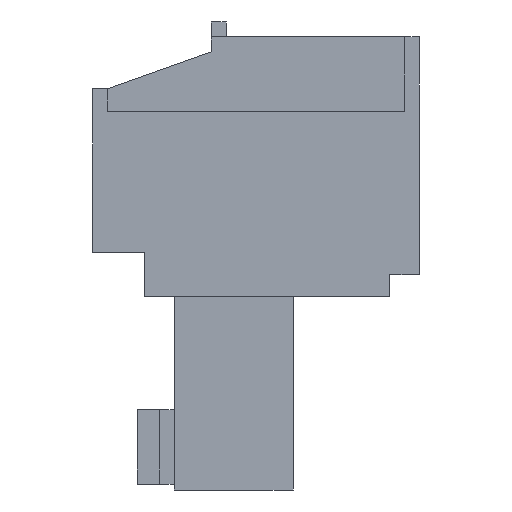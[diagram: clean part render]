
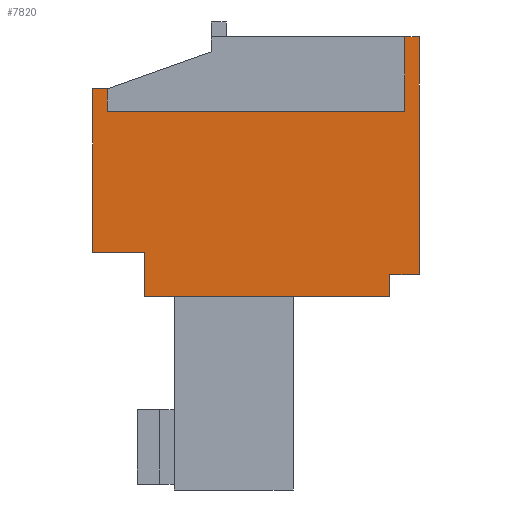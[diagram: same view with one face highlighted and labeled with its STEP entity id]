
A CAD part, left-side view. The second image highlights one B-rep face of the part: STEP entity #7820.
In plain terms, the highlighted planar face has unit normal (-1, 0, 0).
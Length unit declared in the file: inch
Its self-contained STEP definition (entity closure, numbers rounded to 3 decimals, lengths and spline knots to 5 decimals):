
#1=DIRECTION('',(0.,0.,-1.));
#2=VECTOR('',#1,0.1);
#3=CARTESIAN_POINT('',(-0.915,0.02,0.));
#4=LINE('',#3,#2);
#5=DIRECTION('',(0.,-1.,0.));
#6=VECTOR('',#5,0.02);
#7=CARTESIAN_POINT('',(-0.915,0.02,0.));
#8=LINE('',#7,#6);
#9=DIRECTION('',(0.,0.,-1.));
#10=VECTOR('',#9,0.32);
#11=CARTESIAN_POINT('',(-0.915,0.,0.));
#12=LINE('',#11,#10);
#13=DIRECTION('',(0.,1.,0.));
#14=VECTOR('',#13,0.04);
#15=CARTESIAN_POINT('',(-0.915,0.,-0.32));
#16=LINE('',#15,#14);
#17=DIRECTION('',(0.,0.,-1.));
#18=VECTOR('',#17,0.03);
#19=CARTESIAN_POINT('',(-0.915,0.04,-0.32));
#20=LINE('',#19,#18);
#21=DIRECTION('',(0.,1.,0.));
#22=VECTOR('',#21,0.33);
#23=CARTESIAN_POINT('',(-0.915,0.04,-0.35));
#24=LINE('',#23,#22);
#25=DIRECTION('',(0.,0.,1.));
#26=VECTOR('',#25,0.06);
#27=CARTESIAN_POINT('',(-0.915,0.37,-0.35));
#28=LINE('',#27,#26);
#29=DIRECTION('',(0.,1.,0.));
#30=VECTOR('',#29,0.07);
#31=CARTESIAN_POINT('',(-0.915,0.37,-0.29));
#32=LINE('',#31,#30);
#33=DIRECTION('',(0.,0.,1.));
#34=VECTOR('',#33,0.22);
#35=CARTESIAN_POINT('',(-0.915,0.44,-0.29));
#36=LINE('',#35,#34);
#37=DIRECTION('',(0.,-1.,0.));
#38=VECTOR('',#37,0.02);
#39=CARTESIAN_POINT('',(-0.915,0.44,-0.07));
#40=LINE('',#39,#38);
#41=DIRECTION('',(0.,0.,1.));
#42=VECTOR('',#41,0.03);
#43=CARTESIAN_POINT('',(-0.915,0.42,-0.1));
#44=LINE('',#43,#42);
#45=DIRECTION('',(0.,1.,0.));
#46=VECTOR('',#45,0.4);
#47=CARTESIAN_POINT('',(-0.915,0.02,-0.1));
#48=LINE('',#47,#46);
#5957=CARTESIAN_POINT('',(-0.915,0.,0.));
#5958=CARTESIAN_POINT('',(-0.915,0.,-0.32));
#5959=VERTEX_POINT('',#5957);
#5960=VERTEX_POINT('',#5958);
#5961=CARTESIAN_POINT('',(-0.915,0.04,-0.32));
#5962=VERTEX_POINT('',#5961);
#5963=CARTESIAN_POINT('',(-0.915,0.04,-0.35));
#5964=VERTEX_POINT('',#5963);
#5965=CARTESIAN_POINT('',(-0.915,0.37,-0.35));
#5966=VERTEX_POINT('',#5965);
#5967=CARTESIAN_POINT('',(-0.915,0.37,-0.29));
#5968=VERTEX_POINT('',#5967);
#5969=CARTESIAN_POINT('',(-0.915,0.44,-0.29));
#5970=VERTEX_POINT('',#5969);
#5971=CARTESIAN_POINT('',(-0.915,0.44,-0.07));
#5972=VERTEX_POINT('',#5971);
#6177=CARTESIAN_POINT('',(-0.915,0.02,-0.1));
#6178=VERTEX_POINT('',#6177);
#6179=CARTESIAN_POINT('',(-0.915,0.42,-0.1));
#6180=VERTEX_POINT('',#6179);
#6181=CARTESIAN_POINT('',(-0.915,0.02,0.));
#6182=VERTEX_POINT('',#6181);
#6183=CARTESIAN_POINT('',(-0.915,0.42,-0.07));
#6184=VERTEX_POINT('',#6183);
#7789=CARTESIAN_POINT('',(-0.915,0.,0.));
#7790=DIRECTION('',(1.,0.,0.));
#7791=DIRECTION('',(0.,0.,-1.));
#7792=AXIS2_PLACEMENT_3D('',#7789,#7790,#7791);
#7793=PLANE('',#7792);
#7795=ORIENTED_EDGE('',*,*,#7794,.F.);
#7797=ORIENTED_EDGE('',*,*,#7796,.T.);
#7799=ORIENTED_EDGE('',*,*,#7798,.T.);
#7801=ORIENTED_EDGE('',*,*,#7800,.T.);
#7803=ORIENTED_EDGE('',*,*,#7802,.T.);
#7805=ORIENTED_EDGE('',*,*,#7804,.T.);
#7807=ORIENTED_EDGE('',*,*,#7806,.T.);
#7809=ORIENTED_EDGE('',*,*,#7808,.T.);
#7811=ORIENTED_EDGE('',*,*,#7810,.T.);
#7813=ORIENTED_EDGE('',*,*,#7812,.T.);
#7815=ORIENTED_EDGE('',*,*,#7814,.F.);
#7817=ORIENTED_EDGE('',*,*,#7816,.F.);
#7818=EDGE_LOOP('',(#7795,#7797,#7799,#7801,#7803,#7805,#7807,#7809,#7811,#7813,
#7815,#7817));
#7819=FACE_OUTER_BOUND('',#7818,.F.);
#7820=ADVANCED_FACE('',(#7819),#7793,.F.);
#7794=EDGE_CURVE('',#6182,#6178,#4,.T.);
#7796=EDGE_CURVE('',#6182,#5959,#8,.T.);
#7798=EDGE_CURVE('',#5959,#5960,#12,.T.);
#7800=EDGE_CURVE('',#5960,#5962,#16,.T.);
#7802=EDGE_CURVE('',#5962,#5964,#20,.T.);
#7804=EDGE_CURVE('',#5964,#5966,#24,.T.);
#7806=EDGE_CURVE('',#5966,#5968,#28,.T.);
#7808=EDGE_CURVE('',#5968,#5970,#32,.T.);
#7810=EDGE_CURVE('',#5970,#5972,#36,.T.);
#7812=EDGE_CURVE('',#5972,#6184,#40,.T.);
#7814=EDGE_CURVE('',#6180,#6184,#44,.T.);
#7816=EDGE_CURVE('',#6178,#6180,#48,.T.);
